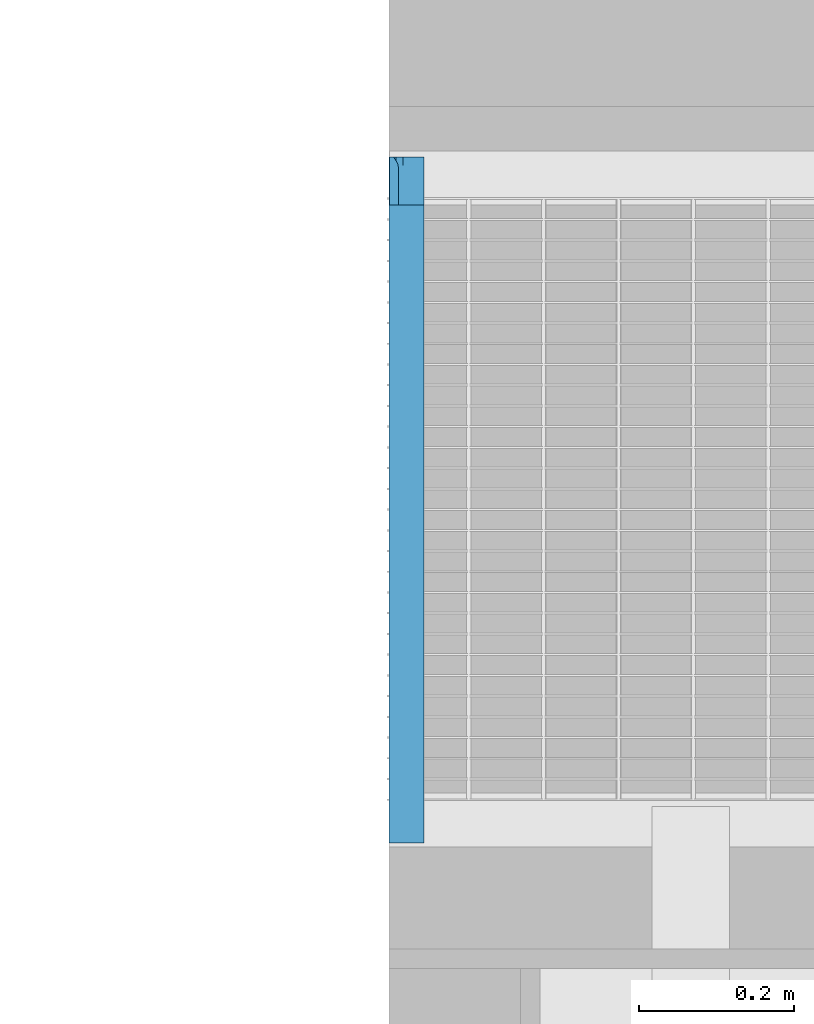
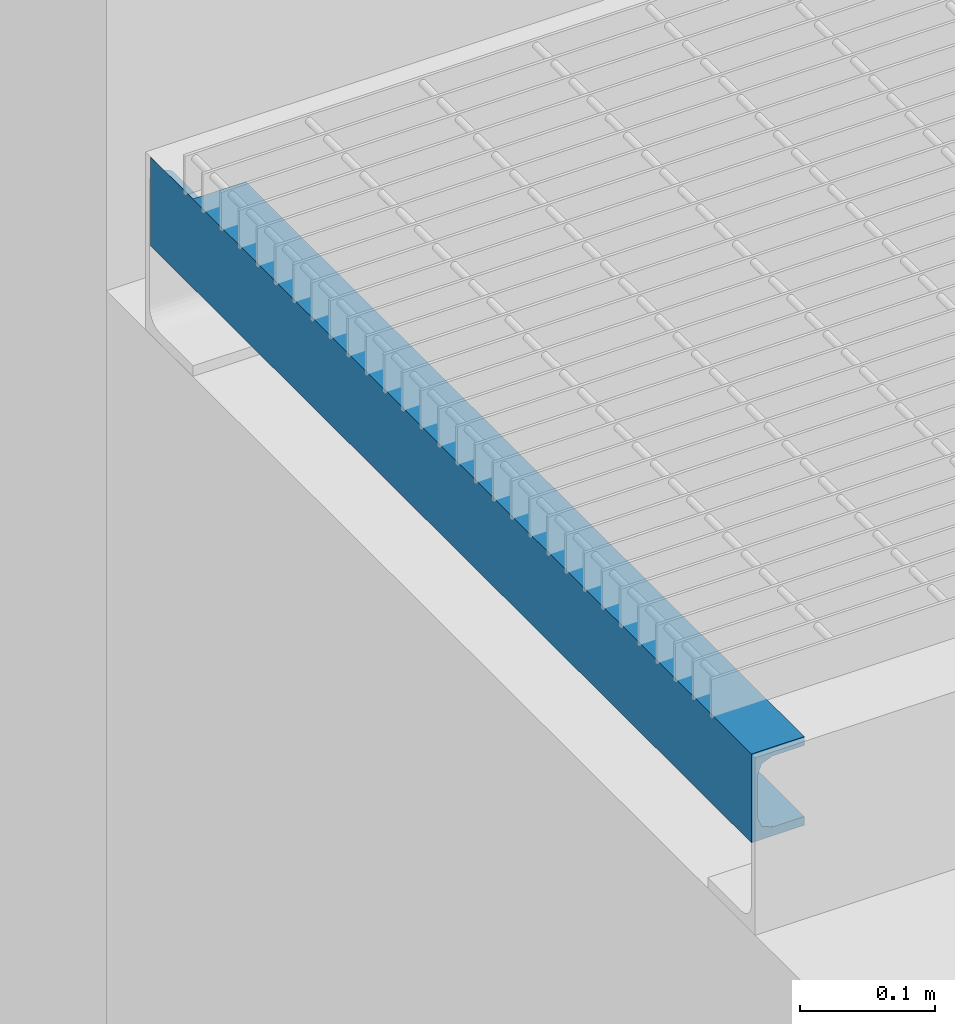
# One storey, part 45 of 75: 1 beam.
"""IFC2X3 building model written with IfcOpenShell, lengths in metres."""

from ifc_helpers import new_model, entity, si_unit, converted_unit, derived_unit, direction, frame, origin, place, context, subcontext, project, spatial, faceted_brep, material, type_object, element, save


model = new_model("IFC2X3")

# Units and contexts
model_context = context("Model", 3, precision=1e-05, world=origin(), true_north=direction((6.12303176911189e-17, 1.0)))
body_context = subcontext(model_context, "Body", "Model", "MODEL_VIEW")
ifc_project = project(units=[si_unit("LENGTHUNIT", "METRE"), si_unit("AREAUNIT", "SQUARE_METRE"), si_unit("VOLUMEUNIT", "CUBIC_METRE"), converted_unit("PLANEANGLEUNIT", "DEGREE", entity("IfcRatioMeasure", 0.0174532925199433), si_unit("PLANEANGLEUNIT", "RADIAN"), dimensions=[0, 0, 0, 0, 0, 0, 0]), si_unit("MASSUNIT", "GRAM", prefix="KILO"), derived_unit("MASSDENSITYUNIT", [(si_unit("MASSUNIT", "GRAM", prefix="KILO"), 1), (si_unit("LENGTHUNIT", "METRE"), -3)]), derived_unit("MOMENTOFINERTIAUNIT", [(si_unit("LENGTHUNIT", "METRE"), 4)]), si_unit("TIMEUNIT", "SECOND"), si_unit("FREQUENCYUNIT", "HERTZ"), si_unit("THERMODYNAMICTEMPERATUREUNIT", "DEGREE_CELSIUS"), derived_unit("THERMALTRANSMITTANCEUNIT", [(si_unit("MASSUNIT", "GRAM", prefix="KILO"), 1), (si_unit("THERMODYNAMICTEMPERATUREUNIT", "KELVIN"), -1), (si_unit("TIMEUNIT", "SECOND"), -3)]), derived_unit("VOLUMETRICFLOWRATEUNIT", [(si_unit("LENGTHUNIT", "METRE"), 3), (si_unit("TIMEUNIT", "SECOND"), -1)]), si_unit("ELECTRICCURRENTUNIT", "AMPERE"), si_unit("ELECTRICVOLTAGEUNIT", "VOLT"), si_unit("POWERUNIT", "WATT"), si_unit("FORCEUNIT", "NEWTON", prefix="KILO"), si_unit("ILLUMINANCEUNIT", "LUX"), si_unit("LUMINOUSFLUXUNIT", "LUMEN"), si_unit("LUMINOUSINTENSITYUNIT", "CANDELA"), derived_unit("USERDEFINED", [(si_unit("MASSUNIT", "GRAM", prefix="KILO"), -1), (si_unit("LENGTHUNIT", "METRE"), -2), (si_unit("TIMEUNIT", "SECOND"), 3), (si_unit("LUMINOUSFLUXUNIT", "LUMEN"), 1)]), derived_unit("LINEARVELOCITYUNIT", [(si_unit("LENGTHUNIT", "METRE"), 1), (si_unit("TIMEUNIT", "SECOND"), -1)]), si_unit("PRESSUREUNIT", "PASCAL"), derived_unit("USERDEFINED", [(si_unit("LENGTHUNIT", "METRE"), -2), (si_unit("MASSUNIT", "GRAM", prefix="KILO"), 1), (si_unit("TIMEUNIT", "SECOND"), -2)]), derived_unit("LINEARFORCEUNIT", [(si_unit("MASSUNIT", "GRAM", prefix="KILO"), 1), (si_unit("LENGTHUNIT", "METRE"), 1), (si_unit("TIMEUNIT", "SECOND"), -2), (si_unit("LENGTHUNIT", "METRE"), -1)]), derived_unit("PLANARFORCEUNIT", [(si_unit("MASSUNIT", "GRAM", prefix="KILO"), 1), (si_unit("LENGTHUNIT", "METRE"), 1), (si_unit("TIMEUNIT", "SECOND"), -2), (si_unit("LENGTHUNIT", "METRE"), -2)])], contexts=[model_context])

# Site, building, storey
site_placement = place(None, origin())
site = spatial("IfcSite", under=ifc_project, at=site_placement, Name="Superficie", CompositionType="ELEMENT")
building_placement = place(site_placement, origin())
building = spatial("IfcBuilding", under=site, at=building_placement, Name="Telegestiones", CompositionType="ELEMENT")
storey_placement = place(building_placement, origin())
storey = spatial("IfcBuildingStorey", under=building, at=storey_placement, Name="Nivel 0_NPT", CompositionType="ELEMENT", Elevation=0.0)

# Beam
ifc_material = material(Name="Metal - Acero - 345 MPa")
beam_type = type_object("IfcBeamType", Name="U-Canales de ala paralela:UAP80", PredefinedType="NOTDEFINED")
beam_placement = place(storey_placement, frame((5.35428977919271, 12.7911759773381, 17.78), z_axis=(0.0, 0.0, 1.0), x_axis=(0.0, -1.0, 0.0)))
element("IfcBeam", 1, at=beam_placement, inside=storey, type_object=beam_type, material=ifc_material, Name="U-Canales de ala paralela:UAP80", ObjectType="U-Canales de ala paralela:UAP80", context=body_context, shape_type="Brep", body=[
    faceted_brep([(0.0, 0.0450000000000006, 0.0), (0.0, 0.0450000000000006, 0.00800000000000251), (0.0, 0.0180000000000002, 0.00800000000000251), (0.0, 0.0140667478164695, 0.00962920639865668), (0.0, 0.0114371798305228, 0.0107184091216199), (0.0, 0.00880761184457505, 0.0118076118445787), (0.0, 0.00785570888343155, 0.0141057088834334), (0.0, 0.00690380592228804, 0.0164038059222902), (0.0, 0.00595190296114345, 0.0187019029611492), (0.0, 0.00499999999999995, 0.0210000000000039), (0.0, 0.00499999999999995, 0.0590000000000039), (0.0, 0.00595190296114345, 0.0612980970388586), (0.0, 0.00690380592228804, 0.0635961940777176), (0.0, 0.00785570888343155, 0.0658942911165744), (0.0, 0.00880761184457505, 0.0681923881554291), (0.0, 0.0111057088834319, 0.0691442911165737), (0.0, 0.0134038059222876, 0.0700961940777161), (0.0, 0.0157019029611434, 0.0710480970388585), (0.0, 0.0180000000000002, 0.0720000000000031), (0.0, 0.0450000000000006, 0.0720000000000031), (0.0, 0.0450000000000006, 0.0800000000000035), (0.0, 0.0, 0.0800000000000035), (0.0, 0.0, 0.0), (-0.887, 0.0180000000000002, 0.00800000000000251), (-0.887, 0.0450000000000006, 0.00800000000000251), (-0.887, 0.0450000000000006, 0.0), (-0.887, 0.0, 0.0), (-0.887, 0.0, 0.0800000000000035), (-0.887, 0.000261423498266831, 0.0800000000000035), (-0.887, 0.000261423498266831, 0.06368697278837), (-0.887, 0.00587431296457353, 0.06368697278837), (-0.887, 0.00524819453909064, 0.061528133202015), (-0.887, 0.00499999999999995, 0.0590000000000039), (-0.887, 0.00499999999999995, 0.0210000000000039), (-0.887, 0.0058146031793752, 0.019033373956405), (-0.887, 0.00690380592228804, 0.0164038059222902), (-0.887, 0.00785570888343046, 0.0141057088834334), (-0.887, 0.00880761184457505, 0.0118076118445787), (-0.887, 0.0111057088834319, 0.0108557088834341), (-0.887, 0.0134038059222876, 0.00990380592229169), (-0.887, 0.0157019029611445, 0.00895190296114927), (-0.82493125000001, 0.0450000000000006, 0.0800000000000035), (-0.82493125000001, 0.000261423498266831, 0.0800000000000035), (-0.82493125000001, 0.0450000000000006, 0.0720000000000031), (-0.125895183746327, 0.0180000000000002, 0.0720000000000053), (-0.22362281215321, 0.0180000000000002, 0.0720000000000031), (-0.321350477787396, 0.0180000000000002, 0.0720000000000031), (-0.447245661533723, 0.0180000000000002, 0.0720000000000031), (-0.510193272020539, 0.0180000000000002, 0.072000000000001), (-0.573140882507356, 0.0180000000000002, 0.0720000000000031), (-0.699036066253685, 0.0180000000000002, 0.0720000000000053), (-0.7619836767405, 0.0180000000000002, 0.0720000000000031), (-0.82493125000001, 0.0180000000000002, 0.0720000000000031), (-0.399828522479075, 0.00612884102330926, 0.0642986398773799), (-0.455443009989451, 0.00752052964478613, 0.0666928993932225), (-0.366784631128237, 0.00756267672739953, 0.0667499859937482), (-0.4126085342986, 0.00932801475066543, 0.0686848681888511), (-0.54098479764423, 0.0103094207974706, 0.0694811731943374), (-0.478719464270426, 0.0155013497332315, 0.0717576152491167), (-0.670614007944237, 0.00553193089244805, 0.0626806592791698), (-0.783815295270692, 0.005514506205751, 0.0626211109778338), (-0.748284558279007, 0.00663489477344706, 0.0653114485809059), (-0.73050985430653, 0.0157137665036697, 0.0717973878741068), (-0.655023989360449, 0.0158751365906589, 0.071825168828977), (-0.324147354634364, 0.00937790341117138, 0.0687293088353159), (-0.116351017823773, 0.00546284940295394, 0.0624380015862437), (-0.0958548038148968, 0.00499999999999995, 0.0590000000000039), (-0.761104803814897, 0.00499999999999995, 0.0590000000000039), (-0.584995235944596, 0.0142291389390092, 0.0714410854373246), (-0.63806579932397, 0.0103189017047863, 0.0694881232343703), (-0.313756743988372, 0.00629345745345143, 0.0646530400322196), (-0.884592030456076, 0.00740601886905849, 0.0665344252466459), (-0.881687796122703, 0.00926484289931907, 0.0686279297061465), (-0.794309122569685, 0.00820573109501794, 0.0675482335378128), (-0.824829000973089, 0.00652556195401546, 0.0651104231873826), (-0.82493125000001, 0.0119378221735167, 0.0705000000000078), (-0.82493125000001, 0.0148775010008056, 0.071619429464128), (-0.752090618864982, 0.0133736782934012, 0.0711489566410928), (-0.878331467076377, 0.0110465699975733, 0.0699840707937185), (-0.815073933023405, 0.00990265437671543, 0.0691702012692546), (-0.666241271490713, 0.0133736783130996, 0.0711489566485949), (-0.742436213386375, 0.0103479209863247, 0.069509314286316), (-0.87443125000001, 0.0119378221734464, 0.070499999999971), (-0.635209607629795, 0.00499999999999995, 0.0590000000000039), (-0.208930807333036, 0.00783351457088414, 0.0671020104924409), (-0.246322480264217, 0.00947226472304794, 0.068812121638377), (-0.174211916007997, 0.00934327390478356, 0.0686985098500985), (-0.696715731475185, 0.0081261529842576, 0.0674561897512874), (-0.66644382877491, 0.00662422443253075, 0.0652921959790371), (-0.617784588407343, 0.00784690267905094, 0.0671187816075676), (-0.507528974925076, 0.0130605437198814, 0.0710250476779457), (-0.450288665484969, 0.011309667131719, 0.0701462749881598), (-0.370013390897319, 0.0114603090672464, 0.070235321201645), (-0.572262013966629, 0.00529765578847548, 0.061765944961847), (-0.509314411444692, 0.00499999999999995, 0.0590000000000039), (-0.170804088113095, 0.00639207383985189, 0.0648528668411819), (-0.0957349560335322, 0.00712010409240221, 0.0661153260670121), (-0.33549182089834, 0.00532924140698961, 0.0619072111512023), (-0.28756441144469, 0.00499999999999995, 0.0590000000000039), (-0.383419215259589, 0.00499999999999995, 0.0590000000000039), (-0.239637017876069, 0.00569835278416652, 0.0632035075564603), (-0.191709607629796, 0.00500000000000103, 0.0590000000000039), (-0.099879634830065, 0.00880644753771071, 0.068191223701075), (-0.123560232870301, 0.0107775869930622, 0.0698091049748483), (-0.0658738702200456, 0.0142262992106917, 0.0714402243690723), (-0.141319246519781, 0.0142204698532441, 0.0714384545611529), (-0.229533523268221, 0.013853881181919, 0.0713211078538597), (-0.199952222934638, 0.0112226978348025, 0.0700936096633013), (-0.277338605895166, 0.0114875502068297, 0.0702511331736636), (-0.38429806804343, 0.0141896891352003, 0.0714290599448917), (-0.489907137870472, 0.00628581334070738, 0.064637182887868), (-0.474230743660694, 0.00539276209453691, 0.0621713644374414), (-0.561822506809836, 0.00606969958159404, 0.064164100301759), (-0.40488569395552, 0.00535681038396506, 0.0620248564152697), (-0.543145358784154, 0.00725710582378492, 0.0663205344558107), (-0.287668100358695, 0.0076473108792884, 0.0668626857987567), (-0.307449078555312, 0.0137541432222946, 0.0712870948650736), (-0.125895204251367, 0.00499999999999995, 0.0210000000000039), (-0.251790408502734, 0.00499999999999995, 0.0210000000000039), (-0.347645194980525, 0.00499999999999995, 0.0210000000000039), (-0.443499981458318, 0.00499999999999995, 0.0210000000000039), (-0.554374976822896, 0.00499999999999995, 0.0210000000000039), (-0.665249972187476, 0.00499999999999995, 0.0210000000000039), (-0.761104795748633, 0.00499999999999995, 0.0210000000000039), (-0.0734619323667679, 0.00989600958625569, 0.0108350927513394), (-0.0788186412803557, 0.0126584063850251, 0.00914810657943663), (-0.299717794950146, 0.00537286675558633, 0.0179088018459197), (-0.637237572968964, 0.00532415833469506, 0.0181150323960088), (-0.713177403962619, 0.00576394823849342, 0.0166092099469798), (-0.44431145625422, 0.0123107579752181, 0.00931100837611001), (-0.315945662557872, 0.0113863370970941, 0.00980806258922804), (-0.335491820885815, 0.014732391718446, 0.00841736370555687), (-0.51865070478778, 0.0143274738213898, 0.00852953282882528), (-0.509314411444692, 0.0180000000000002, 0.00800000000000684), (-0.594527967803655, 0.0154908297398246, 0.00824444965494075), (-0.438897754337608, 0.00999407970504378, 0.0107576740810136), (-0.409636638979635, 0.00815277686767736, 0.0125128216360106), (-0.704157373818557, 0.0111320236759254, 0.00996229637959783), (-0.602762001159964, 0.0127505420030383, 0.00910701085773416), (-0.698157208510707, 0.0147601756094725, 0.00841018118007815), (-0.450193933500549, 0.00550211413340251, 0.0174218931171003), (-0.41972831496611, 0.00670067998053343, 0.014571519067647), (-0.34764519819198, 0.00647007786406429, 0.0149949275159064), (-0.800011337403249, 0.0147677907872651, 0.00840822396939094), (-0.761104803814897, 0.0180000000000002, 0.00800000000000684), (-0.112149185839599, 0.00536096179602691, 0.0179578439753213), (-0.201607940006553, 0.00532915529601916, 0.0180931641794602), (-0.0734515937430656, 0.0154674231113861, 0.00824907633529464), (-0.158802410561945, 0.0144776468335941, 0.00848628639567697), (-0.195273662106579, 0.00812471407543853, 0.0125454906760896), (-0.151425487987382, 0.00629995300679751, 0.0153335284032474), (-0.0937230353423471, 0.00786156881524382, 0.0128629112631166), (-0.300125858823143, 0.00845069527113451, 0.0121789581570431), (-0.248618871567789, 0.0134751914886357, 0.00881287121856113), (-0.249535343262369, 0.0063837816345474, 0.0151636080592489), (-0.287564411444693, 0.0180000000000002, 0.00800000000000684), (-0.383419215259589, 0.0180000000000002, 0.00800000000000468), (-0.125895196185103, 0.0180000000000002, 0.00800000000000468), (-0.191709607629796, 0.0180000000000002, 0.00800000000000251), (-0.232159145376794, 0.0108807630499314, 0.0101226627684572), (-0.146923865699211, 0.0110865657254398, 0.00999071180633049), (-0.271701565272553, 0.0156653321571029, 0.0082113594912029), (-0.425295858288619, 0.0152197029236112, 0.00830078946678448), (-0.526087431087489, 0.0116362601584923, 0.00966409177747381), (-0.697294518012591, 0.00813782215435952, 0.0125302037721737), (-0.612759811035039, 0.00967715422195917, 0.0110134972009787), (-0.635209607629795, 0.0180000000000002, 0.00800000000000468), (-0.554375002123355, 0.00560357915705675, 0.017084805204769), (-0.492870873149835, 0.00680969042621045, 0.014383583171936), (-0.800231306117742, 0.0116351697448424, 0.00966470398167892), (-0.795198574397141, 0.00701450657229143, 0.014048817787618), (-0.764347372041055, 0.00943661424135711, 0.0112189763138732), (-0.803520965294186, 0.00550758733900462, 0.0174028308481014), (-0.596627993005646, 0.0071362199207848, 0.0138600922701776), (-0.643905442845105, 0.00615345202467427, 0.0156465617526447), (-0.701431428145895, 0.00675652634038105, 0.0144743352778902), (-0.509314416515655, 0.00905086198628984, 0.0115706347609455), (-0.377241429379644, 0.00524948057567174, 0.0184653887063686), (-0.0760148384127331, 0.00611015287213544, 0.015743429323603), (-0.82493125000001, 0.000261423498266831, 0.0705000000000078), (-0.87443125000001, 0.000261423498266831, 0.07050000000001), (-0.878119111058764, 0.000261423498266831, 0.0700395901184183), (-0.881580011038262, 0.000261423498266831, 0.068686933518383), (-0.88460213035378, 0.000261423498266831, 0.0665251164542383)], [[[0, 1, 2, 3, 4, 5, 6, 7, 8, 9, 10, 11, 12, 13, 14, 15, 16, 17, 18, 19, 20, 21, 22]], [[23, 24, 25, 26, 27, 28, 29, 30, 31, 32, 33, 34, 35, 36, 37, 38, 39, 40]], [[28, 27, 21, 20, 41, 42]], [[41, 20, 19, 43]], [[24, 1, 0, 25]], [[43, 19, 18, 44, 45, 46, 47, 48, 49, 50, 51, 52]], [[53, 54, 55]], [[56, 54, 57]], [[48, 47, 58, 49]], [[59, 60, 61]], [[62, 50, 63]], [[56, 64, 55]], [[65, 11, 66]], [[31, 60, 67]], [[68, 57, 69]], [[53, 55, 70]], [[71, 72, 73]], [[74, 61, 60]], [[75, 76, 77]], [[31, 30, 60]], [[67, 32, 31]], [[72, 78, 79]], [[80, 69, 81]], [[82, 75, 78]], [[73, 72, 79]], [[79, 75, 81]], [[83, 67, 59]], [[84, 85, 86]], [[73, 87, 61]], [[50, 62, 51]], [[74, 30, 71]], [[81, 87, 73]], [[87, 81, 69]], [[52, 51, 76]], [[80, 81, 77]], [[88, 87, 89]], [[57, 90, 91]], [[59, 61, 88]], [[62, 63, 80]], [[56, 92, 64]], [[63, 49, 68]], [[93, 94, 83]], [[95, 96, 65]], [[97, 98, 99]], [[100, 101, 98]], [[102, 84, 86]], [[75, 77, 81]], [[77, 76, 62]], [[16, 103, 104]], [[17, 16, 104]], [[44, 104, 105]], [[106, 107, 108]], [[107, 85, 108]], [[47, 46, 109]], [[71, 73, 74]], [[59, 67, 60]], [[110, 111, 112]], [[87, 88, 61]], [[113, 53, 97]], [[59, 93, 83]], [[51, 62, 76]], [[77, 62, 80]], [[80, 63, 68]], [[63, 50, 49]], [[80, 68, 69]], [[56, 91, 92]], [[90, 68, 58]], [[105, 107, 106]], [[47, 109, 58]], [[49, 58, 68]], [[90, 58, 109]], [[93, 59, 112]], [[89, 112, 88]], [[114, 89, 57]], [[89, 87, 69]], [[94, 93, 111]], [[93, 112, 111]], [[94, 111, 99]], [[110, 54, 53]], [[101, 100, 65]], [[84, 96, 95]], [[53, 113, 111]], [[53, 70, 97]], [[97, 100, 98]], [[100, 97, 70]], [[66, 101, 65]], [[96, 12, 65]], [[13, 12, 96, 14]], [[103, 102, 86]], [[100, 115, 84]], [[85, 64, 108]], [[70, 55, 115]], [[56, 55, 54]], [[115, 55, 64]], [[92, 116, 108]], [[91, 56, 57]], [[110, 114, 54]], [[64, 92, 108]], [[90, 109, 91]], [[92, 91, 109]], [[90, 57, 68]], [[69, 57, 89]], [[114, 57, 54]], [[70, 115, 100]], [[85, 84, 115]], [[64, 85, 115]], [[107, 86, 85]], [[103, 15, 102]], [[106, 108, 116]], [[103, 107, 105]], [[116, 109, 46]], [[44, 105, 45]], [[106, 45, 105]], [[46, 45, 116]], [[96, 84, 102]], [[86, 107, 103]], [[96, 102, 14]], [[113, 99, 111]], [[112, 114, 110]], [[111, 110, 53]], [[114, 112, 89]], [[88, 112, 59]], [[45, 106, 116]], [[109, 116, 92]], [[30, 74, 60]], [[61, 74, 73]], [[17, 104, 44]], [[17, 44, 18]], [[105, 104, 103]], [[73, 79, 81]], [[75, 79, 78]], [[14, 102, 15]], [[103, 16, 15]], [[113, 97, 99]], [[10, 66, 11]], [[95, 100, 84]], [[65, 12, 11]], [[100, 95, 65]], [[9, 117, 118, 119, 120, 121, 122, 123, 33, 32, 67, 83, 94, 99, 98, 101, 66, 10]], [[124, 4, 125]], [[118, 126, 119]], [[127, 128, 122]], [[129, 130, 131]], [[132, 133, 134]], [[135, 136, 130]], [[137, 138, 139]], [[120, 140, 121]], [[136, 141, 142]], [[23, 143, 144]], [[9, 145, 117]], [[118, 146, 126]], [[147, 148, 125]], [[149, 150, 151]], [[136, 142, 152]], [[145, 146, 117]], [[153, 131, 130]], [[150, 149, 154]], [[147, 3, 2]], [[155, 156, 131]], [[157, 148, 147]], [[148, 157, 158]], [[153, 159, 160]], [[158, 161, 148]], [[148, 161, 153]], [[162, 132, 129]], [[132, 138, 163]], [[131, 162, 129]], [[156, 162, 131]], [[164, 165, 137]], [[144, 139, 166]], [[167, 140, 168]], [[122, 128, 123]], [[143, 39, 169]], [[134, 166, 139]], [[170, 171, 37]], [[123, 172, 34]], [[35, 172, 170]], [[34, 172, 35]], [[173, 165, 164]], [[174, 173, 175]], [[168, 173, 167]], [[137, 165, 138]], [[139, 144, 143]], [[169, 171, 137]], [[139, 143, 169]], [[138, 165, 163]], [[173, 168, 176]], [[165, 173, 176]], [[174, 127, 167]], [[176, 168, 136]], [[167, 121, 140]], [[176, 136, 135]], [[130, 136, 152]], [[159, 153, 130]], [[149, 152, 154]], [[168, 140, 141]], [[140, 120, 177]], [[126, 142, 177]], [[119, 126, 177]], [[150, 154, 146]], [[154, 152, 142]], [[154, 142, 126]], [[130, 152, 159]], [[178, 6, 151]], [[5, 124, 151]], [[149, 151, 160]], [[118, 117, 146]], [[178, 8, 7, 6]], [[126, 146, 154]], [[145, 150, 146]], [[145, 178, 150]], [[137, 139, 169]], [[23, 40, 39, 143]], [[164, 137, 171]], [[169, 38, 171]], [[131, 153, 161]], [[148, 153, 160]], [[159, 149, 160]], [[149, 159, 152]], [[164, 171, 170]], [[161, 155, 131]], [[175, 164, 170]], [[36, 35, 170, 37]], [[132, 163, 129]], [[162, 156, 133]], [[138, 132, 134]], [[132, 162, 133]], [[129, 163, 135]], [[176, 163, 165]], [[150, 178, 151]], [[145, 9, 8]], [[138, 134, 139]], [[166, 134, 133]], [[157, 147, 2]], [[3, 147, 125]], [[124, 5, 4]], [[160, 125, 148]], [[4, 3, 125]], [[124, 160, 151]], [[160, 124, 125]], [[34, 33, 123]], [[172, 128, 170]], [[128, 172, 123]], [[128, 127, 174]], [[122, 121, 127]], [[167, 127, 121]], [[128, 174, 175]], [[173, 174, 167]], [[128, 175, 170]], [[164, 175, 173]], [[177, 142, 141]], [[141, 136, 168]], [[176, 135, 163]], [[129, 135, 130]], [[119, 177, 120]], [[141, 140, 177]], [[6, 5, 151]], [[145, 8, 178]], [[37, 171, 38]], [[169, 39, 38]], [[155, 161, 158]], [[1, 24, 23, 144, 166, 133, 156, 155, 158, 157, 2]], [[25, 0, 22, 26]], [[26, 22, 21, 27]], [[28, 42, 179, 180, 181, 182, 183, 29]], [[29, 183, 30]], [[71, 30, 183]], [[182, 72, 71]], [[71, 183, 182]], [[181, 78, 72]], [[78, 180, 82]], [[180, 78, 181]], [[181, 72, 182]], [[75, 82, 180, 179]], [[75, 179, 42, 41, 43, 52, 76]]]),
])

save(model, "model.ifc")
